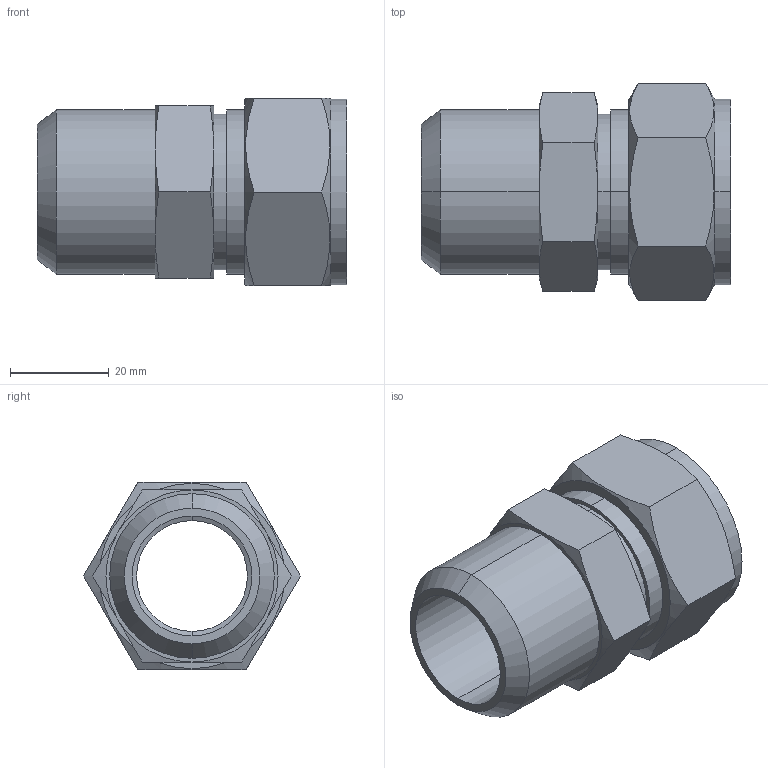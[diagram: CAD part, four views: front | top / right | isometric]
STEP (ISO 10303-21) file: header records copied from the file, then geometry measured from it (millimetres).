
FILE_DESCRIPTION (( 'STEP AP203' ), '1' );
FILE_NAME ('DCB16-16 SS.STEP', '2009-09-08T04:47:56', ( ' ' ), ( '' ), 'SwSTEP 2.0', 'SolidWorks 2008', '' );
FILE_SCHEMA (( 'CONFIG_CONTROL_DESIGN' ));
Length unit declared in the file: millimetre
Products named in the file (1): DCB16-16 SS
Bounding box: 62.7 x 43.99 x 38.1 mm (x, y, z)
Volume: 33577.1 mm3; surface area: 13931.7 mm2
Topology: 1 solids, 1 shells, 53 faces, 118 edges, 72 vertices
Faces by surface type: cone 20, plane 19, cylinder 14
Entity records: 1745 total; most frequent: CARTESIAN_POINT 532, ORIENTED_EDGE 236, DIRECTION 230, EDGE_CURVE 118, AXIS2_PLACEMENT_3D 98, VERTEX_POINT 72, EDGE_LOOP 60, ADVANCED_FACE 53
